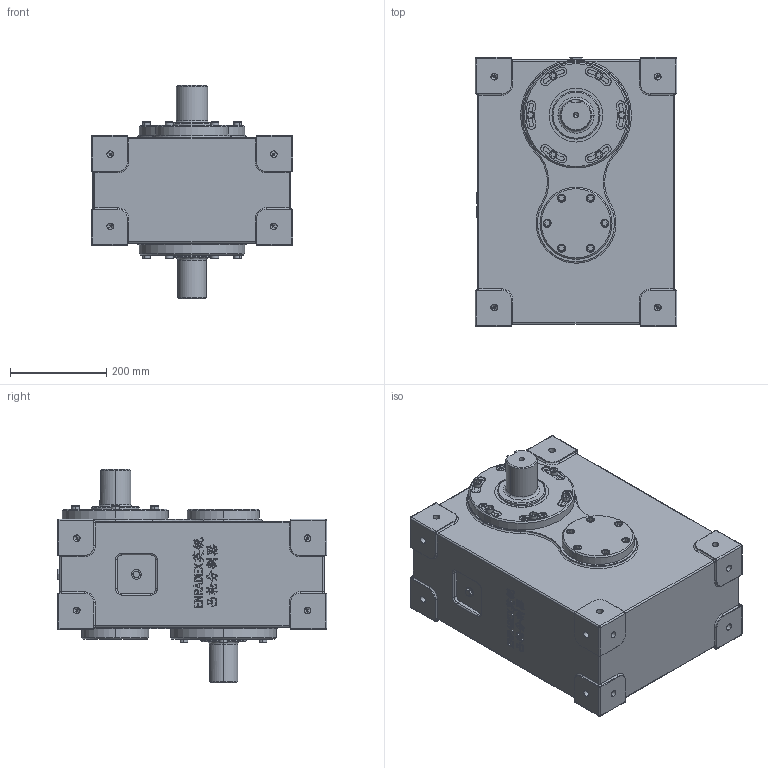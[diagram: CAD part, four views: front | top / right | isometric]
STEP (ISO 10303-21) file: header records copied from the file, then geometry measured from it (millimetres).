
FILE_DESCRIPTION (( 'STEP AP214' ), '1' );
FILE_NAME ('ER-PU225DS英锐凸轮分割器3D标准图纸(电话15062628977)AB.STEP', '2022-10-27T09:24:09', ( '微软用户' ), ( '微软中国' ), 'SwSTEP 2.0', 'SolidWorks 2017', '' );
FILE_SCHEMA (( 'AUTOMOTIVE_DESIGN' ));
Length unit declared in the file: millimetre
Products named in the file (1): ER-PU225DS英锐凸轮分割器3D标准图纸(电话15062628977)AB
Bounding box: 420 x 560.75 x 443 mm (x, y, z)
Volume: 53354419.6 mm3; surface area: 1062352.8 mm2
Topology: 1 solids, 3 shells, 1371 faces, 3312 edges, 2041 vertices
Faces by surface type: cylinder 484, plane 481, bspline 285, cone 121
Entity records: 65667 total; most frequent: CARTESIAN_POINT 27893, ORIENTED_EDGE 6596, DIRECTION 5922, EDGE_CURVE 3298, AXIS2_PLACEMENT_3D 2194, VERTEX_POINT 2041, EDGE_LOOP 1535, LINE 1534
